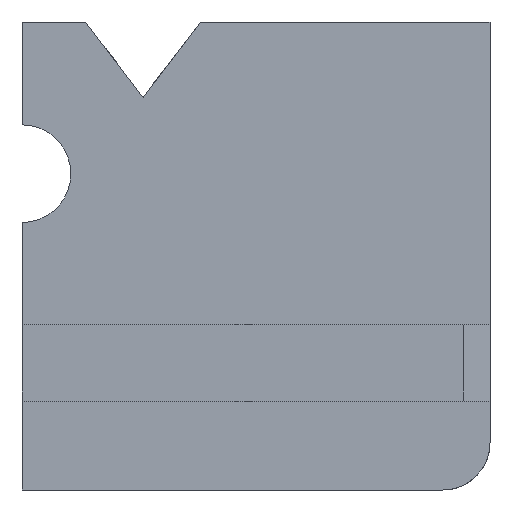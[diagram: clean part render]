
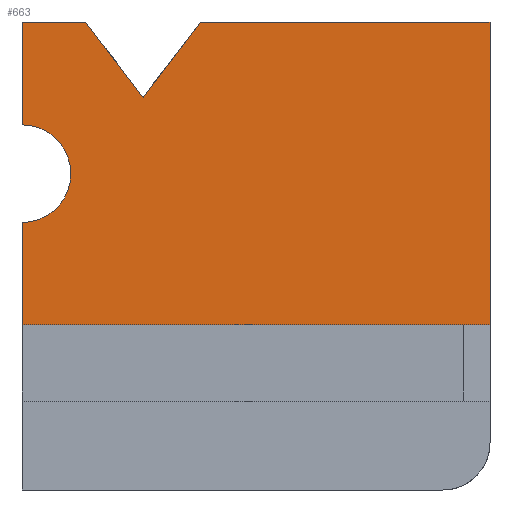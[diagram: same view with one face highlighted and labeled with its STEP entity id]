
A CAD part, front view. The second image highlights one B-rep face of the part: STEP entity #663.
In plain terms, the highlighted planar face has unit normal (0, -1, 0).
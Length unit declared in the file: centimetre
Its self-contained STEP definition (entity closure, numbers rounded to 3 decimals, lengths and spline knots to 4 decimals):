
#70 = DIRECTION ( 'NONE',  ( 0.606, 0., -0.796 ) ) ;
#83 = VERTEX_POINT ( 'NONE', #1206 ) ;
#109 = VERTEX_POINT ( 'NONE', #607 ) ;
#197 = VERTEX_POINT ( 'NONE', #973 ) ;
#199 = VECTOR ( 'NONE', #70, 100. ) ;
#200 = CARTESIAN_POINT ( 'NONE',  ( 1000., 0., 353.0638 ) ) ;
#201 = VECTOR ( 'NONE', #235, 100. ) ;
#228 = DIRECTION ( 'NONE',  ( 1., 0., 0. ) ) ;
#235 = DIRECTION ( 'NONE',  ( 0., 0., -1. ) ) ;
#272 = DIRECTION ( 'NONE',  ( 1., 0., 0. ) ) ;
#304 = VERTEX_POINT ( 'NONE', #496 ) ;
#309 = DIRECTION ( 'NONE',  ( 0., -1., 0. ) ) ;
#317 = DIRECTION ( 'NONE',  ( 0., 0., -1. ) ) ;
#319 = ORIENTED_EDGE ( 'NONE', *, *, #924, .F. ) ;
#360 = ORIENTED_EDGE ( 'NONE', *, *, #960, .F. ) ;
#364 = DIRECTION ( 'NONE',  ( 0., 1., 0. ) ) ;
#368 = CARTESIAN_POINT ( 'NONE',  ( 0., 0., 1000. ) ) ;
#390 = LINE ( 'NONE', #200, #587 ) ;
#427 = AXIS2_PLACEMENT_3D ( 'NONE', #1218, #364, #1121 ) ;
#428 = AXIS2_PLACEMENT_3D ( 'NONE', #1194, #309, #1048 ) ;
#474 = ORIENTED_EDGE ( 'NONE', *, *, #1220, .F. ) ;
#477 = CARTESIAN_POINT ( 'NONE',  ( 0., 0., 353.0638 ) ) ;
#496 = CARTESIAN_POINT ( 'NONE',  ( 1000., 0., 1000. ) ) ;
#502 = ORIENTED_EDGE ( 'NONE', *, *, #1232, .F. ) ;
#509 = VECTOR ( 'NONE', #952, 100. ) ;
#523 = CARTESIAN_POINT ( 'NONE',  ( 1000., 0., 353.0638 ) ) ;
#534 = VECTOR ( 'NONE', #272, 100. ) ;
#545 = LINE ( 'NONE', #940, #199 ) ;
#551 = CIRCLE ( 'NONE', #428, 104.3424 ) ;
#552 = LINE ( 'NONE', #1035, #509 ) ;
#555 = ORIENTED_EDGE ( 'NONE', *, *, #600, .F. ) ;
#583 = ORIENTED_EDGE ( 'NONE', *, *, #770, .F. ) ;
#587 = VECTOR ( 'NONE', #694, 100. ) ;
#588 = LINE ( 'NONE', #980, #670 ) ;
#600 = EDGE_CURVE ( 'NONE', #197, #83, #545, .T. ) ;
#607 = CARTESIAN_POINT ( 'NONE',  ( 381.1442, 0., 1000. ) ) ;
#616 = ORIENTED_EDGE ( 'NONE', *, *, #705, .T. ) ;
#663 = ADVANCED_FACE ( 'NONE', ( #1233 ), #842, .F. ) ;
#670 = VECTOR ( 'NONE', #1059, 100. ) ;
#688 = EDGE_LOOP ( 'NONE', ( #360, #720, #555, #502, #616, #583, #1162, #474, #319 ) ) ;
#694 = DIRECTION ( 'NONE',  ( -1., 0., 0. ) ) ;
#700 = LINE ( 'NONE', #1020, #971 ) ;
#705 = EDGE_CURVE ( 'NONE', #1142, #1192, #832, .T. ) ;
#720 = ORIENTED_EDGE ( 'NONE', *, *, #1122, .F. ) ;
#770 = EDGE_CURVE ( 'NONE', #1185, #1192, #551, .T. ) ;
#832 = LINE ( 'NONE', #1215, #1118 ) ;
#842 = PLANE ( 'NONE',  #427 ) ;
#861 = VERTEX_POINT ( 'NONE', #523 ) ;
#878 = CARTESIAN_POINT ( 'NONE',  ( 0., 0., 1000. ) ) ;
#924 = EDGE_CURVE ( 'NONE', #304, #861, #1208, .T. ) ;
#940 = CARTESIAN_POINT ( 'NONE',  ( 136.0114, 0., 1000. ) ) ;
#952 = DIRECTION ( 'NONE',  ( 0., 0., -1. ) ) ;
#960 = EDGE_CURVE ( 'NONE', #109, #304, #1221, .T. ) ;
#971 = VECTOR ( 'NONE', #228, 100. ) ;
#973 = CARTESIAN_POINT ( 'NONE',  ( 136.0114, 0., 1000. ) ) ;
#978 = EDGE_CURVE ( 'NONE', #1185, #1175, #552, .T. ) ;
#980 = CARTESIAN_POINT ( 'NONE',  ( 258.5778, 0., 839.0274 ) ) ;
#1020 = CARTESIAN_POINT ( 'NONE',  ( 0., 0., 1000. ) ) ;
#1035 = CARTESIAN_POINT ( 'NONE',  ( 0., 0., 1000. ) ) ;
#1048 = DIRECTION ( 'NONE',  ( 0., 0., -1. ) ) ;
#1059 = DIRECTION ( 'NONE',  ( 0.606, 0., 0.796 ) ) ;
#1106 = CARTESIAN_POINT ( 'NONE',  ( 1000., 0., 1000. ) ) ;
#1118 = VECTOR ( 'NONE', #317, 100. ) ;
#1121 = DIRECTION ( 'NONE',  ( 0., 0., 1. ) ) ;
#1122 = EDGE_CURVE ( 'NONE', #83, #109, #588, .T. ) ;
#1142 = VERTEX_POINT ( 'NONE', #878 ) ;
#1159 = CARTESIAN_POINT ( 'NONE',  ( 0., 0., 780.305 ) ) ;
#1162 = ORIENTED_EDGE ( 'NONE', *, *, #978, .T. ) ;
#1175 = VERTEX_POINT ( 'NONE', #477 ) ;
#1185 = VERTEX_POINT ( 'NONE', #1249 ) ;
#1192 = VERTEX_POINT ( 'NONE', #1159 ) ;
#1194 = CARTESIAN_POINT ( 'NONE',  ( 0., 0., 675.9626 ) ) ;
#1206 = CARTESIAN_POINT ( 'NONE',  ( 258.5778, 0., 839.0274 ) ) ;
#1208 = LINE ( 'NONE', #1106, #201 ) ;
#1215 = CARTESIAN_POINT ( 'NONE',  ( 0., 0., 1000. ) ) ;
#1218 = CARTESIAN_POINT ( 'NONE',  ( 0., 0., 1000. ) ) ;
#1220 = EDGE_CURVE ( 'NONE', #861, #1175, #390, .T. ) ;
#1221 = LINE ( 'NONE', #368, #534 ) ;
#1232 = EDGE_CURVE ( 'NONE', #1142, #197, #700, .T. ) ;
#1233 = FACE_OUTER_BOUND ( 'NONE', #688, .T. ) ;
#1249 = CARTESIAN_POINT ( 'NONE',  ( 0., 0., 571.6203 ) ) ;
